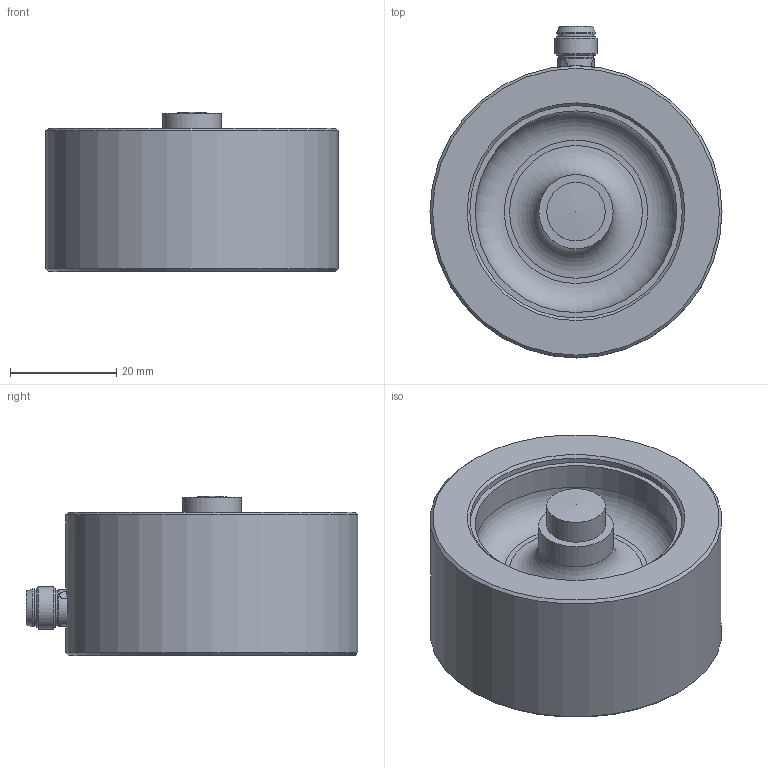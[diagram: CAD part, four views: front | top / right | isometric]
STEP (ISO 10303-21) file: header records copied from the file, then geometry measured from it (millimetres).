
FILE_DESCRIPTION( ( 'Unknown' ), '1' );
FILE_NAME( 'X:/SolidEdge/Models/Dokumentationen/Dehnungs-Kraftsensoren/DLRP Lastzelle DMS/vereinfachte Modelle/Neutralformate/DLRP L002 Druck.stp', 'Unknown', ( 'Unknown' ), ( 'Unknown' ), 'PSStep 19.0.9', 'Unknown', ' ' );
FILE_SCHEMA( ( 'AUTOMOTIVE_DESIGN { 1 0 10303 214 1 1 1 1 }' ) );
Length unit declared in the file: millimetre
Products named in the file (1): 165647
Bounding box: 55 x 62.5 x 30 mm (x, y, z)
Volume: 52596.9 mm3; surface area: 12387.1 mm2
Topology: 1 solids, 2 shells, 89 faces, 193 edges, 118 vertices
Faces by surface type: cylinder 48, plane 21, cone 13, sphere 5, torus 2
Full cylindrical faces by diameter (mm): 1 x4, 2 x2, 4.134 x4, 5.8 x1, 6.4 x1, 6.6 x2, 6.9 x1, 7.2 x1, 8 x2, 11 x1, 14 x1, 38 x1, 40 x2, 55 x1
Entity records: 3491 total; most frequent: CARTESIAN_POINT 574, DIRECTION 338, PRESENTATION_STYLE_ASSIGNMENT 231, COLOUR_RGB 231, ORIENTED_EDGE 226, STYLED_ITEM 172, AXIS2_PLACEMENT_3D 169, EDGE_LOOP 147
